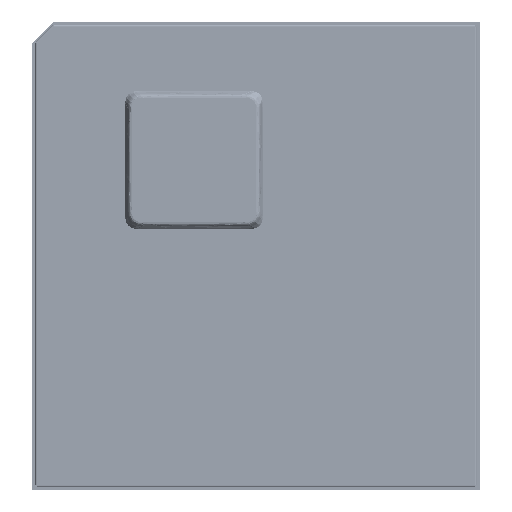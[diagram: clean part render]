
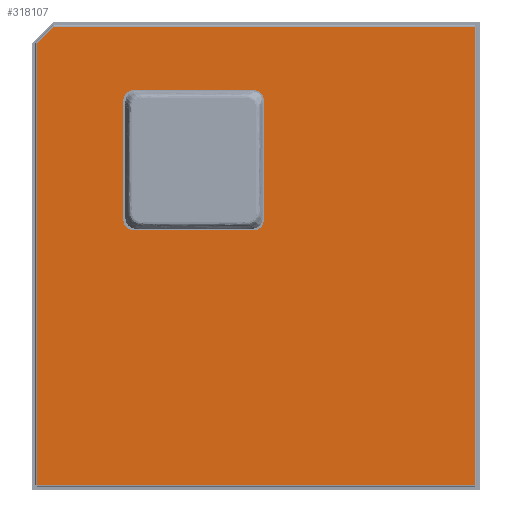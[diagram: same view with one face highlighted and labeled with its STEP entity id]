
A CAD part, top view. The second image highlights one B-rep face of the part: STEP entity #318107.
In plain terms, the highlighted planar face has unit normal (0, 0, 1) as drawn and (0, 1, 0) by its records, which use the part's own axes.
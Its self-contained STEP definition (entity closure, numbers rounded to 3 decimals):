
#315492=CARTESIAN_POINT('',(-11.75,0.2,-14.95));
#315493=DIRECTION('',(0.,-1.,0.));
#315494=DIRECTION('',(-1.,0.,0.));
#315495=AXIS2_PLACEMENT_3D('',#315492,#315493,#315494);
#315522=CARTESIAN_POINT('',(-0.25,0.2,-14.95));
#315523=DIRECTION('',(0.,-1.,0.));
#315524=DIRECTION('',(0.,0.,-1.));
#315525=AXIS2_PLACEMENT_3D('',#315522,#315523,#315524);
#315544=DIRECTION('',(1.,0.,0.));
#315545=VECTOR('',#315544,11.5);
#315546=CARTESIAN_POINT('',(-11.75,0.2,-15.95));
#315547=LINE('',#315546,#315545);
#315551=DIRECTION('',(0.,0.,-1.));
#315552=VECTOR('',#315551,11.5);
#315553=CARTESIAN_POINT('',(-12.75,0.2,-3.45));
#315554=LINE('',#315553,#315552);
#315558=DIRECTION('',(-1.,0.,0.));
#315559=VECTOR('',#315558,11.5);
#315560=CARTESIAN_POINT('',(-0.25,0.2,-2.45));
#315561=LINE('',#315560,#315559);
#315565=DIRECTION('',(0.,0.,1.));
#315566=VECTOR('',#315565,11.5);
#315567=CARTESIAN_POINT('',(0.75,0.2,-14.95));
#315568=LINE('',#315567,#315566);
#315580=CARTESIAN_POINT('',(-11.75,0.2,-3.45));
#315581=DIRECTION('',(0.,-1.,0.));
#315582=DIRECTION('',(0.,0.,1.));
#315583=AXIS2_PLACEMENT_3D('',#315580,#315581,#315582);
#315610=CARTESIAN_POINT('',(-0.25,0.2,-3.45));
#315611=DIRECTION('',(0.,-1.,0.));
#315612=DIRECTION('',(1.,0.,0.));
#315613=AXIS2_PLACEMENT_3D('',#315610,#315611,#315612);
#315618=DIRECTION('',(0.707,0.,-0.707));
#315619=VECTOR('',#315618,2.263);
#315620=CARTESIAN_POINT('',(-21.05,0.2,-20.45));
#315621=LINE('',#315620,#315619);
#315640=DIRECTION('',(0.,0.,-1.));
#315641=VECTOR('',#315640,42.5);
#315642=CARTESIAN_POINT('',(-21.05,0.2,22.05));
#315643=LINE('',#315642,#315641);
#315754=DIRECTION('',(-1.,0.,0.));
#315755=VECTOR('',#315754,42.1);
#315756=CARTESIAN_POINT('',(21.05,0.2,22.05));
#315757=LINE('',#315756,#315755);
#316285=DIRECTION('',(0.,0.,1.));
#316286=VECTOR('',#316285,44.1);
#316287=CARTESIAN_POINT('',(21.05,0.2,-22.05));
#316288=LINE('',#316287,#316286);
#316641=DIRECTION('',(1.,0.,0.));
#316642=VECTOR('',#316641,40.5);
#316643=CARTESIAN_POINT('',(-19.45,0.2,-22.05));
#316644=LINE('',#316643,#316642);
#317351=CARTESIAN_POINT('',(-21.05,0.2,22.05));
#317352=VERTEX_POINT('',#317351);
#317357=CARTESIAN_POINT('',(21.05,0.2,22.05));
#317358=VERTEX_POINT('',#317357);
#317371=CARTESIAN_POINT('',(21.05,0.2,-22.05));
#317372=VERTEX_POINT('',#317371);
#317650=CARTESIAN_POINT('',(0.75,0.2,-14.95));
#317652=VERTEX_POINT('',#317650);
#317654=CARTESIAN_POINT('',(-0.25,0.2,-15.95));
#317656=VERTEX_POINT('',#317654);
#317658=CARTESIAN_POINT('',(-11.75,0.2,-15.95));
#317660=VERTEX_POINT('',#317658);
#317662=CARTESIAN_POINT('',(-12.75,0.2,-14.95));
#317664=VERTEX_POINT('',#317662);
#317666=CARTESIAN_POINT('',(-12.75,0.2,-3.45));
#317668=VERTEX_POINT('',#317666);
#317670=CARTESIAN_POINT('',(-11.75,0.2,-2.45));
#317672=VERTEX_POINT('',#317670);
#317674=CARTESIAN_POINT('',(-0.25,0.2,-2.45));
#317676=VERTEX_POINT('',#317674);
#317678=CARTESIAN_POINT('',(0.75,0.2,-3.45));
#317680=VERTEX_POINT('',#317678);
#317697=CARTESIAN_POINT('',(-19.45,0.2,-22.05));
#317698=VERTEX_POINT('',#317697);
#317699=CARTESIAN_POINT('',(-21.05,0.2,-20.45));
#317700=VERTEX_POINT('',#317699);
#318077=CARTESIAN_POINT('',(0.,0.2,0.));
#318078=DIRECTION('',(0.,1.,0.));
#318079=DIRECTION('',(1.,0.,0.));
#318080=AXIS2_PLACEMENT_3D('',#318077,#318078,#318079);
#318081=PLANE('',#318080);
#318083=ORIENTED_EDGE('',*,*,#318082,.T.);
#318085=ORIENTED_EDGE('',*,*,#318084,.T.);
#318087=ORIENTED_EDGE('',*,*,#318086,.T.);
#318089=ORIENTED_EDGE('',*,*,#318088,.T.);
#318091=ORIENTED_EDGE('',*,*,#318090,.T.);
#318092=EDGE_LOOP('',(#318083,#318085,#318087,#318089,#318091));
#318093=FACE_OUTER_BOUND('',#318092,.F.);
#318094=ORIENTED_EDGE('',*,*,#318044,.F.);
#318095=ORIENTED_EDGE('',*,*,#318030,.F.);
#318096=ORIENTED_EDGE('',*,*,#318016,.F.);
#318098=ORIENTED_EDGE('',*,*,#318097,.F.);
#318100=ORIENTED_EDGE('',*,*,#318099,.F.);
#318102=ORIENTED_EDGE('',*,*,#318101,.F.);
#318103=ORIENTED_EDGE('',*,*,#318069,.F.);
#318104=ORIENTED_EDGE('',*,*,#318058,.F.);
#318105=EDGE_LOOP('',(#318094,#318095,#318096,#318098,#318100,#318102,#318103,
#318104));
#318106=FACE_BOUND('',#318105,.F.);
#315496=CIRCLE('',#315495,1.);
#315526=CIRCLE('',#315525,1.);
#315584=CIRCLE('',#315583,1.);
#315614=CIRCLE('',#315613,1.);
#318016=EDGE_CURVE('',#317668,#317664,#315554,.T.);
#318030=EDGE_CURVE('',#317664,#317660,#315496,.T.);
#318044=EDGE_CURVE('',#317660,#317656,#315547,.T.);
#318058=EDGE_CURVE('',#317656,#317652,#315526,.T.);
#318069=EDGE_CURVE('',#317652,#317680,#315568,.T.);
#318082=EDGE_CURVE('',#317700,#317698,#315621,.T.);
#318084=EDGE_CURVE('',#317698,#317372,#316644,.T.);
#318086=EDGE_CURVE('',#317372,#317358,#316288,.T.);
#318088=EDGE_CURVE('',#317358,#317352,#315757,.T.);
#318090=EDGE_CURVE('',#317352,#317700,#315643,.T.);
#318097=EDGE_CURVE('',#317672,#317668,#315584,.T.);
#318099=EDGE_CURVE('',#317676,#317672,#315561,.T.);
#318101=EDGE_CURVE('',#317680,#317676,#315614,.T.);
#318107=ADVANCED_FACE('',(#318093,#318106),#318081,.T.);
